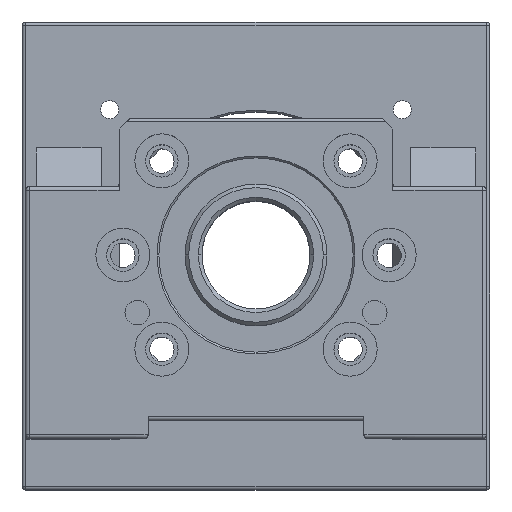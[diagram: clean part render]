
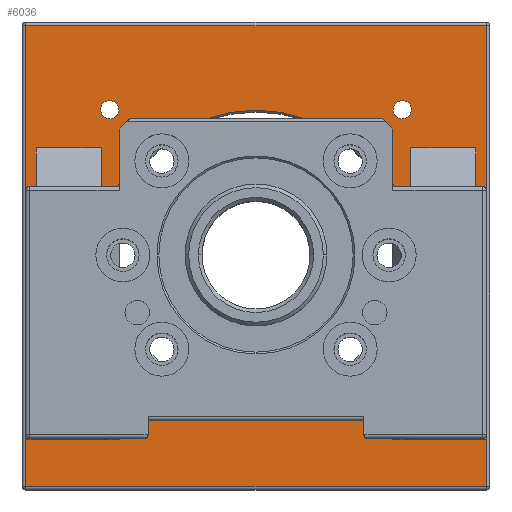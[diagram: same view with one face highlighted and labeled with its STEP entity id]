
A CAD part, top view. The second image highlights one B-rep face of the part: STEP entity #6036.
In plain terms, the highlighted planar face has unit normal (0, 0, 1).
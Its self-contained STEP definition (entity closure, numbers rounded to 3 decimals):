
#2748=DIRECTION('',(-1.,0.,0.));
#2749=VECTOR('',#2748,18.);
#2750=CARTESIAN_POINT('',(61.,30.,20.));
#2751=LINE('',#2750,#2749);
#2763=DIRECTION('',(0.,-1.,0.));
#2764=VECTOR('',#2763,69.782);
#2765=CARTESIAN_POINT('',(43.,30.,20.));
#2766=LINE('',#2765,#2764);
#2775=DIRECTION('',(0.,-1.,0.));
#2776=VECTOR('',#2775,8.465);
#2777=CARTESIAN_POINT('',(43.,-41.535,20.));
#2778=LINE('',#2777,#2776);
#2779=CARTESIAN_POINT('',(-40.659,-40.659,20.));
#2780=DIRECTION('',(0.,0.,-1.));
#2781=DIRECTION('',(-0.937,0.351,0.));
#2782=AXIS2_PLACEMENT_3D('',#2779,#2780,#2781);
#2784=DIRECTION('',(-1.,0.,0.));
#2785=VECTOR('',#2784,17.);
#2786=CARTESIAN_POINT('',(-44.,-51.,20.));
#2787=LINE('',#2786,#2785);
#2788=CARTESIAN_POINT('',(-44.,-50.,20.));
#2789=DIRECTION('',(0.,0.,-1.));
#2790=DIRECTION('',(1.,0.,0.));
#2791=AXIS2_PLACEMENT_3D('',#2788,#2789,#2790);
#2793=CARTESIAN_POINT('',(-40.659,-40.659,20.));
#2794=DIRECTION('',(0.,0.,-1.));
#2795=DIRECTION('',(1.,0.,0.));
#2796=AXIS2_PLACEMENT_3D('',#2793,#2794,#2795);
#2798=CARTESIAN_POINT('',(40.659,-40.659,20.));
#2799=DIRECTION('',(0.,0.,-1.));
#2800=DIRECTION('',(0.937,-0.351,0.));
#2801=AXIS2_PLACEMENT_3D('',#2798,#2799,#2800);
#2803=CARTESIAN_POINT('',(44.,-50.,20.));
#2804=DIRECTION('',(0.,0.,-1.));
#2805=DIRECTION('',(0.,-1.,0.));
#2806=AXIS2_PLACEMENT_3D('',#2803,#2804,#2805);
#2808=DIRECTION('',(-1.,0.,0.));
#2809=VECTOR('',#2808,16.);
#2810=CARTESIAN_POINT('',(60.,-51.,20.));
#2811=LINE('',#2810,#2809);
#2812=CARTESIAN_POINT('',(60.,-50.,20.));
#2813=DIRECTION('',(0.,0.,-1.));
#2814=DIRECTION('',(1.,0.,0.));
#2815=AXIS2_PLACEMENT_3D('',#2812,#2813,#2814);
#2817=CARTESIAN_POINT('',(40.659,-40.659,20.));
#2818=DIRECTION('',(0.,0.,-1.));
#2819=DIRECTION('',(-1.,0.,0.));
#2820=AXIS2_PLACEMENT_3D('',#2817,#2818,#2819);
#2822=CARTESIAN_POINT('',(40.659,40.659,20.));
#2823=DIRECTION('',(0.,0.,-1.));
#2824=DIRECTION('',(-1.,0.,0.));
#2825=AXIS2_PLACEMENT_3D('',#2822,#2823,#2824);
#2827=CARTESIAN_POINT('',(40.659,40.659,20.));
#2828=DIRECTION('',(0.,0.,-1.));
#2829=DIRECTION('',(1.,0.,0.));
#2830=AXIS2_PLACEMENT_3D('',#2827,#2828,#2829);
#2832=CARTESIAN_POINT('',(-40.659,40.659,20.));
#2833=DIRECTION('',(0.,0.,-1.));
#2834=DIRECTION('',(-1.,0.,0.));
#2835=AXIS2_PLACEMENT_3D('',#2832,#2833,#2834);
#2837=CARTESIAN_POINT('',(-40.659,40.659,20.));
#2838=DIRECTION('',(0.,0.,-1.));
#2839=DIRECTION('',(1.,0.,0.));
#2840=AXIS2_PLACEMENT_3D('',#2837,#2838,#2839);
#2842=CARTESIAN_POINT('',(0.,0.,20.));
#2843=DIRECTION('',(0.,0.,-1.));
#2844=DIRECTION('',(1.,0.,0.));
#2845=AXIS2_PLACEMENT_3D('',#2842,#2843,#2844);
#2847=CARTESIAN_POINT('',(0.,0.,20.));
#2848=DIRECTION('',(0.,0.,-1.));
#2849=DIRECTION('',(-1.,0.,0.));
#2850=AXIS2_PLACEMENT_3D('',#2847,#2848,#2849);
#2852=DIRECTION('',(0.,1.,0.));
#2853=VECTOR('',#2852,128.);
#2854=CARTESIAN_POINT('',(-64.,-64.,20.));
#2855=LINE('',#2854,#2853);
#2875=DIRECTION('',(1.,0.,0.));
#2876=VECTOR('',#2875,128.);
#2877=CARTESIAN_POINT('',(-64.,64.,20.));
#2878=LINE('',#2877,#2876);
#3053=DIRECTION('',(-1.,0.,0.));
#3054=VECTOR('',#3053,128.);
#3055=CARTESIAN_POINT('',(64.,-64.,20.));
#3056=LINE('',#3055,#3054);
#3099=DIRECTION('',(0.,-1.,0.));
#3100=VECTOR('',#3099,128.);
#3101=CARTESIAN_POINT('',(64.,64.,20.));
#3102=LINE('',#3101,#3100);
#3154=DIRECTION('',(0.,1.,0.));
#3155=VECTOR('',#3154,8.465);
#3156=CARTESIAN_POINT('',(-43.,-50.,20.));
#3157=LINE('',#3156,#3155);
#3166=DIRECTION('',(0.,1.,0.));
#3167=VECTOR('',#3166,69.782);
#3168=CARTESIAN_POINT('',(-43.,-39.782,20.));
#3169=LINE('',#3168,#3167);
#3200=DIRECTION('',(-1.,0.,0.));
#3201=VECTOR('',#3200,18.);
#3202=CARTESIAN_POINT('',(-43.,30.,20.));
#3203=LINE('',#3202,#3201);
#3219=DIRECTION('',(0.,-1.,0.));
#3220=VECTOR('',#3219,81.);
#3221=CARTESIAN_POINT('',(-61.,30.,20.));
#3222=LINE('',#3221,#3220);
#3433=CARTESIAN_POINT('',(43.,-41.535,20.));
#3866=DIRECTION('',(0.,1.,0.));
#3867=VECTOR('',#3866,80.);
#3868=CARTESIAN_POINT('',(61.,-50.,20.));
#3869=LINE('',#3868,#3867);
#4538=CARTESIAN_POINT('',(-43.,-39.782,20.));
#4539=CARTESIAN_POINT('',(-38.159,-40.659,20.));
#4540=VERTEX_POINT('',#4538);
#4541=VERTEX_POINT('',#4539);
#4558=CARTESIAN_POINT('',(38.159,-40.659,20.));
#4559=CARTESIAN_POINT('',(43.,-39.782,20.));
#4560=VERTEX_POINT('',#4558);
#4561=VERTEX_POINT('',#4559);
#4604=CARTESIAN_POINT('',(38.159,40.659,20.));
#4605=CARTESIAN_POINT('',(43.159,40.659,20.));
#4606=VERTEX_POINT('',#4604);
#4607=VERTEX_POINT('',#4605);
#4626=CARTESIAN_POINT('',(-40.5,0.,20.));
#4627=CARTESIAN_POINT('',(40.5,0.,20.));
#4628=VERTEX_POINT('',#4626);
#4629=VERTEX_POINT('',#4627);
#4663=CARTESIAN_POINT('',(43.,30.,20.));
#4665=VERTEX_POINT('',#4663);
#4789=VERTEX_POINT('',#3433);
#4816=CARTESIAN_POINT('',(-64.,-64.,20.));
#4817=VERTEX_POINT('',#4816);
#4836=CARTESIAN_POINT('',(-43.,30.,20.));
#4837=VERTEX_POINT('',#4836);
#4846=CARTESIAN_POINT('',(-43.159,40.659,20.));
#4847=CARTESIAN_POINT('',(-38.159,40.659,20.));
#4848=VERTEX_POINT('',#4846);
#4849=VERTEX_POINT('',#4847);
#4866=CARTESIAN_POINT('',(-61.,30.,20.));
#4867=VERTEX_POINT('',#4866);
#4886=CARTESIAN_POINT('',(60.,-51.,20.));
#4887=VERTEX_POINT('',#4886);
#4915=CARTESIAN_POINT('',(61.,30.,20.));
#4916=VERTEX_POINT('',#4915);
#4931=CARTESIAN_POINT('',(44.,-51.,20.));
#4932=CARTESIAN_POINT('',(43.,-50.,20.));
#4933=VERTEX_POINT('',#4931);
#4934=VERTEX_POINT('',#4932);
#4941=CARTESIAN_POINT('',(-43.,-50.,20.));
#4943=VERTEX_POINT('',#4941);
#4953=CARTESIAN_POINT('',(64.,-64.,20.));
#4954=VERTEX_POINT('',#4953);
#4971=CARTESIAN_POINT('',(-43.,-41.535,20.));
#4972=VERTEX_POINT('',#4971);
#4973=CARTESIAN_POINT('',(-64.,64.,20.));
#4974=VERTEX_POINT('',#4973);
#4984=CARTESIAN_POINT('',(-61.,-51.,20.));
#4985=VERTEX_POINT('',#4984);
#4992=CARTESIAN_POINT('',(64.,64.,20.));
#4993=VERTEX_POINT('',#4992);
#4995=CARTESIAN_POINT('',(-44.,-51.,20.));
#4997=VERTEX_POINT('',#4995);
#5069=CARTESIAN_POINT('',(61.,-50.,20.));
#5070=VERTEX_POINT('',#5069);
#5969=CARTESIAN_POINT('',(0.,0.,20.));
#5970=DIRECTION('',(0.,0.,1.));
#5971=DIRECTION('',(1.,0.,0.));
#5972=AXIS2_PLACEMENT_3D('',#5969,#5970,#5971);
#5973=PLANE('',#5972);
#5975=ORIENTED_EDGE('',*,*,#5974,.T.);
#5977=ORIENTED_EDGE('',*,*,#5976,.T.);
#5979=ORIENTED_EDGE('',*,*,#5978,.T.);
#5981=ORIENTED_EDGE('',*,*,#5980,.T.);
#5982=EDGE_LOOP('',(#5975,#5977,#5979,#5981));
#5983=FACE_OUTER_BOUND('',#5982,.F.);
#5985=ORIENTED_EDGE('',*,*,#5984,.F.);
#5987=ORIENTED_EDGE('',*,*,#5986,.T.);
#5989=ORIENTED_EDGE('',*,*,#5988,.T.);
#5991=ORIENTED_EDGE('',*,*,#5990,.T.);
#5992=ORIENTED_EDGE('',*,*,#5479,.F.);
#5994=ORIENTED_EDGE('',*,*,#5993,.F.);
#5996=ORIENTED_EDGE('',*,*,#5995,.T.);
#5998=ORIENTED_EDGE('',*,*,#5997,.F.);
#5999=EDGE_LOOP('',(#5985,#5987,#5989,#5991,#5992,#5994,#5996,#5998));
#6000=FACE_BOUND('',#5999,.F.);
#6002=ORIENTED_EDGE('',*,*,#6001,.F.);
#6003=ORIENTED_EDGE('',*,*,#5960,.T.);
#6005=ORIENTED_EDGE('',*,*,#6004,.F.);
#6007=ORIENTED_EDGE('',*,*,#6006,.F.);
#6009=ORIENTED_EDGE('',*,*,#6008,.F.);
#6011=ORIENTED_EDGE('',*,*,#6010,.T.);
#6012=ORIENTED_EDGE('',*,*,#5934,.T.);
#6013=ORIENTED_EDGE('',*,*,#5951,.T.);
#6015=ORIENTED_EDGE('',*,*,#6014,.F.);
#6016=EDGE_LOOP('',(#6002,#6003,#6005,#6007,#6009,#6011,#6012,#6013,#6015));
#6017=FACE_BOUND('',#6016,.F.);
#6019=ORIENTED_EDGE('',*,*,#6018,.F.);
#6021=ORIENTED_EDGE('',*,*,#6020,.F.);
#6022=EDGE_LOOP('',(#6019,#6021));
#6023=FACE_BOUND('',#6022,.F.);
#6025=ORIENTED_EDGE('',*,*,#6024,.F.);
#6027=ORIENTED_EDGE('',*,*,#6026,.F.);
#6028=EDGE_LOOP('',(#6025,#6027));
#6029=FACE_BOUND('',#6028,.F.);
#6031=ORIENTED_EDGE('',*,*,#6030,.F.);
#6033=ORIENTED_EDGE('',*,*,#6032,.F.);
#6034=EDGE_LOOP('',(#6031,#6033));
#6035=FACE_BOUND('',#6034,.F.);
#2783=CIRCLE('',#2782,2.5);
#2792=CIRCLE('',#2791,1.);
#2797=CIRCLE('',#2796,2.5);
#2802=CIRCLE('',#2801,2.5);
#2807=CIRCLE('',#2806,1.);
#2816=CIRCLE('',#2815,1.);
#2821=CIRCLE('',#2820,2.5);
#2826=CIRCLE('',#2825,2.5);
#2831=CIRCLE('',#2830,2.5);
#2836=CIRCLE('',#2835,2.5);
#2841=CIRCLE('',#2840,2.5);
#2846=CIRCLE('',#2845,40.5);
#2851=CIRCLE('',#2850,40.5);
#5479=EDGE_CURVE('',#4997,#4985,#2787,.T.);
#5934=EDGE_CURVE('',#4916,#4665,#2751,.T.);
#5951=EDGE_CURVE('',#4665,#4561,#2766,.T.);
#5960=EDGE_CURVE('',#4789,#4934,#2778,.T.);
#5974=EDGE_CURVE('',#4817,#4974,#2855,.T.);
#5976=EDGE_CURVE('',#4974,#4993,#2878,.T.);
#5978=EDGE_CURVE('',#4993,#4954,#3102,.T.);
#5980=EDGE_CURVE('',#4954,#4817,#3056,.T.);
#5984=EDGE_CURVE('',#4540,#4541,#2783,.T.);
#5986=EDGE_CURVE('',#4540,#4837,#3169,.T.);
#5988=EDGE_CURVE('',#4837,#4867,#3203,.T.);
#5990=EDGE_CURVE('',#4867,#4985,#3222,.T.);
#5993=EDGE_CURVE('',#4943,#4997,#2792,.T.);
#5995=EDGE_CURVE('',#4943,#4972,#3157,.T.);
#5997=EDGE_CURVE('',#4541,#4972,#2797,.T.);
#6001=EDGE_CURVE('',#4789,#4560,#2802,.T.);
#6004=EDGE_CURVE('',#4933,#4934,#2807,.T.);
#6006=EDGE_CURVE('',#4887,#4933,#2811,.T.);
#6008=EDGE_CURVE('',#5070,#4887,#2816,.T.);
#6010=EDGE_CURVE('',#5070,#4916,#3869,.T.);
#6014=EDGE_CURVE('',#4560,#4561,#2821,.T.);
#6018=EDGE_CURVE('',#4606,#4607,#2826,.T.);
#6020=EDGE_CURVE('',#4607,#4606,#2831,.T.);
#6024=EDGE_CURVE('',#4848,#4849,#2836,.T.);
#6026=EDGE_CURVE('',#4849,#4848,#2841,.T.);
#6030=EDGE_CURVE('',#4629,#4628,#2846,.T.);
#6032=EDGE_CURVE('',#4628,#4629,#2851,.T.);
#6036=ADVANCED_FACE('',(#5983,#6000,#6017,#6023,#6029,#6035),#5973,.T.);
